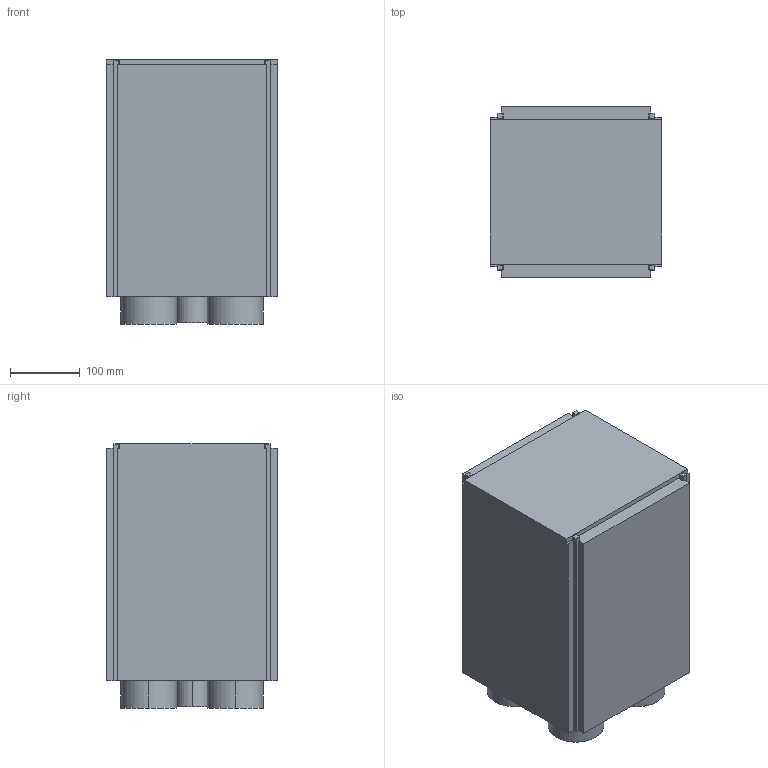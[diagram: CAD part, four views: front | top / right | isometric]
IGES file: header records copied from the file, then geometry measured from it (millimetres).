
Start section:  PTC IGES file: C:\Users\gleb\z) Windows folders\Desktop\1) ISIPOD Fligh t Model\4) CubeSat_Dims\160916_Updated_CubeSat_ISIS_Advised_Max_Dimensio ns\160916_RevC_12U_CubeSat_ISIS_Advised_Max_Dimensions.igs
Global section: file name: C:\Users\gleb\z) Windows folders\Desktop\1) ISIPOD Flight Model\4) CubeSat_Dims\160916_Updated_CubeSat_ISIS_Advised_Max_Dimensions\160916_RevC_12U_CubeSat_ISIS_Advised_Max_Dimensions.igs; native system: gleb by Parametric Technology Corporation; preprocessor: 2003250; author: Unknown; organization: PTC; date: 160916.094801; units: millimetre
Bounding box: 246.3 x 246.3 x 380.5 mm (x, y, z)
Volume: 21162401.5 mm3; surface area: 500102.7 mm2
Topology: 1 solids, 1 shells, 85 faces, 234 edges, 156 vertices
Faces by surface type: bspline 75, revolution 10
